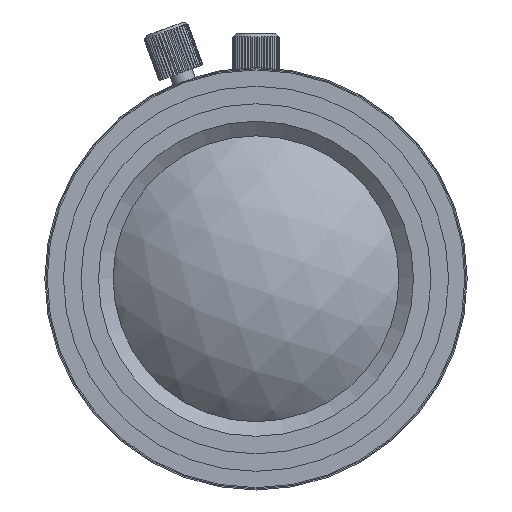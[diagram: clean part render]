
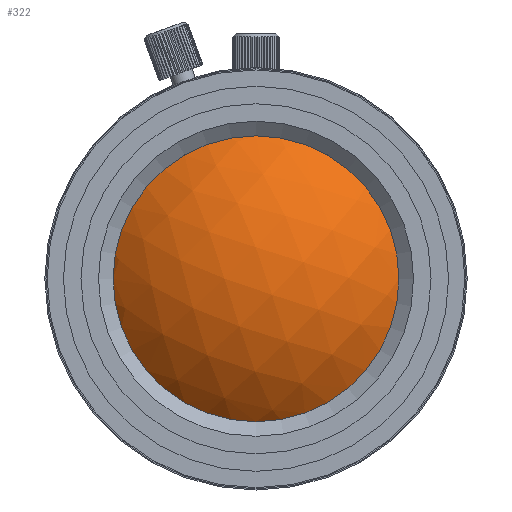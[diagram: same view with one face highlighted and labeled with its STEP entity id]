
A CAD part, front view. The second image highlights one B-rep face of the part: STEP entity #322.
In plain terms, the highlighted spherical face has radius 17.505 mm.
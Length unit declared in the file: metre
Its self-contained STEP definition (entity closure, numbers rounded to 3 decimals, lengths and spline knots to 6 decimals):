
#322=ADVANCED_FACE('126:35754',(#832,#833),#834,.T.);
#832=FACE_BOUND('',#1586,.T.);
#833=FACE_OUTER_BOUND('',#1587,.T.);
#834=SPHERICAL_SURFACE('',#1588,0.017505);
#1586=VERTEX_LOOP('',#2427);
#1587=EDGE_LOOP('',(#2428));
#1588=AXIS2_PLACEMENT_3D('',#2429,#2430,#2431);
#2427=VERTEX_POINT('',#4393);
#2428=ORIENTED_EDGE('',*,*,#4394,.F.);
#2429=CARTESIAN_POINT('',(0.0,-0.016998,0.027097));
#2430=DIRECTION('',(-0.7,-0.143,0.7));
#2431=DIRECTION('',(-0.707,0.,-0.707));
#4393=CARTESIAN_POINT('',(0.0,-0.034503,0.027097));
#4394=EDGE_CURVE('126:36588',#5237,#5237,#5238,.F.);
#5237=VERTEX_POINT('',#6522);
#5238=CIRCLE('',#6523,0.012249);
#6522=CARTESIAN_POINT('',(-0.012249,-0.029503,0.027097));
#6523=AXIS2_PLACEMENT_3D('',#8406,#8407,#8408);
#8406=CARTESIAN_POINT('',(0.0,-0.029503,0.027097));
#8407=DIRECTION('',(-0.0,-1.0,0.));
#8408=DIRECTION('',(-1.0,0.0,0.0));
